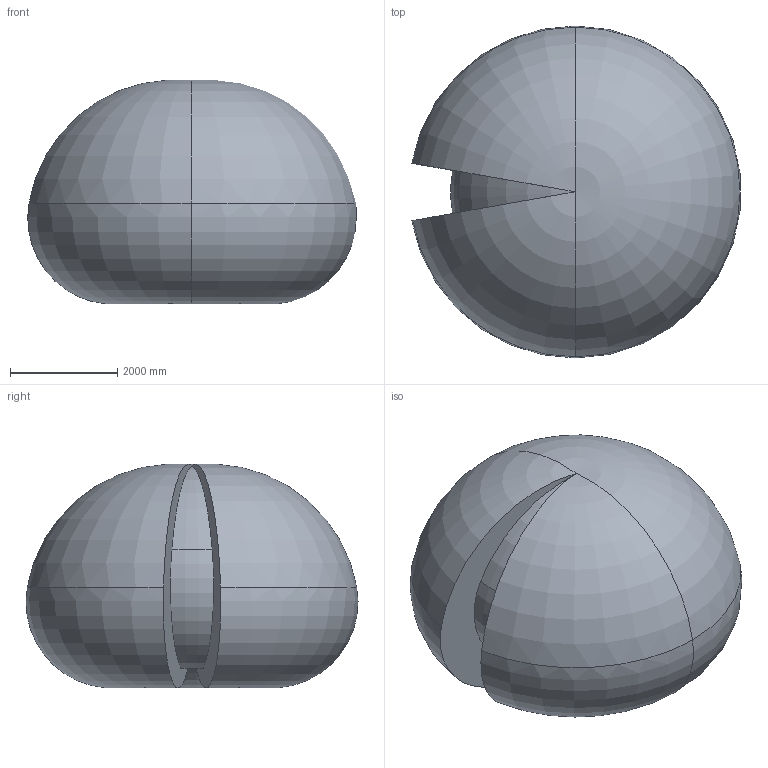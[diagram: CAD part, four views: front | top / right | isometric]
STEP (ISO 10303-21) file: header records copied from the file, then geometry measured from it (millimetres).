
FILE_DESCRIPTION (( 'STEP AP214' ), '1' );
FILE_NAME ('IRB6730_210kg-310_OC_00_Working-space.step', '2026-05-26T08:41:54', ( '' ), ( '' ), 'SwSTEP 2.0', 'SolidWorks 2024', '' );
FILE_SCHEMA (( 'AUTOMOTIVE_DESIGN' ));
Length unit declared in the file: millimetre
Products named in the file (1): IRB6730_210kg-310_OC_00_Working-space
Bounding box: 6130.35 x 6194.37 x 4169.03 mm (x, y, z)
Volume: 81252690272 mm3; surface area: 125701592.1 mm2
Topology: 1 solids, 1 shells, 22 faces, 54 edges, 26 vertices
Faces by surface type: torus 18, plane 4
Entity records: 627 total; most frequent: DIRECTION 138, CARTESIAN_POINT 95, ORIENTED_EDGE 92, AXIS2_PLACEMENT_3D 69, CIRCLE 46, EDGE_CURVE 46, VERTEX_POINT 26, ADVANCED_FACE 22
